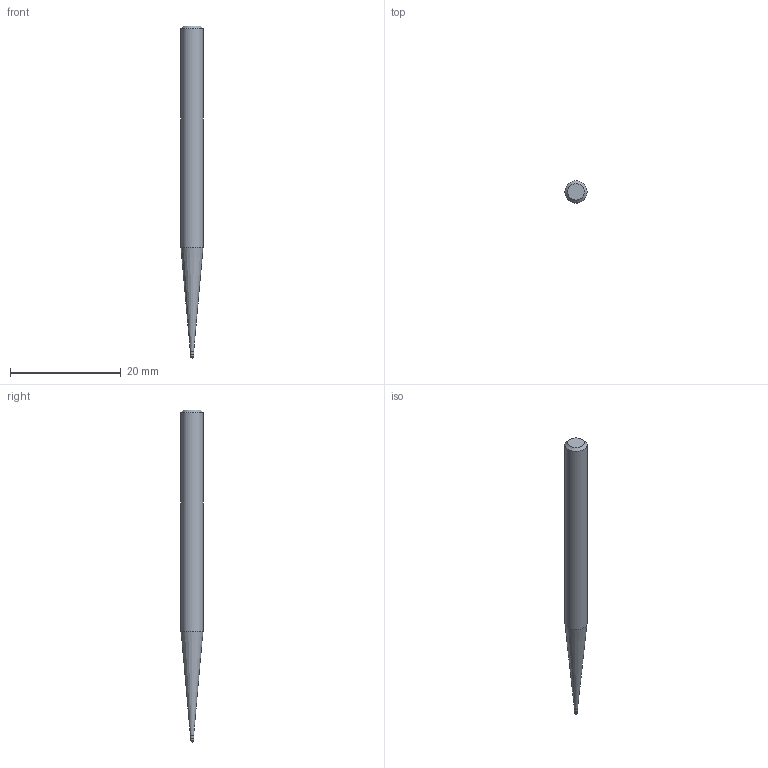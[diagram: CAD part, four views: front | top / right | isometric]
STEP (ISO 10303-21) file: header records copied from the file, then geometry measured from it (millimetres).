
FILE_DESCRIPTION((''),'2;1');
FILE_NAME('C:\Users\nsx150\AppData\Local\Temp\Mastercam 2021\SNAKH10GOD\TEMP.step','2021-10-21T13:31:48',(''),(''),'STEP Write','Mastercam 2021 ... CNC Software, Inc.','');
FILE_SCHEMA(('AUTOMOTIVE_DESIGN'));
Length unit declared in the file: millimetre
Products named in the file (1): None
Bounding box: 4 x 4 x 60 mm (x, y, z)
Volume: 593.5 mm3; surface area: 650 mm2
Topology: 2 solids, 2 shells, 9 faces, 14 edges, 8 vertices
Faces by surface type: plane 3, cylinder 3, cone 2, sphere 1
Full cylindrical faces by diameter (mm): 0.585 x1, 0.6 x1, 4 x1
Entity records: 211 total; most frequent: DIRECTION 36, CARTESIAN_POINT 25, AXIS2_PLACEMENT_3D 18, ORIENTED_EDGE 14, EDGE_LOOP 14, STYLED_ITEM 12, ADVANCED_FACE 9, FACE_BOUND 8
